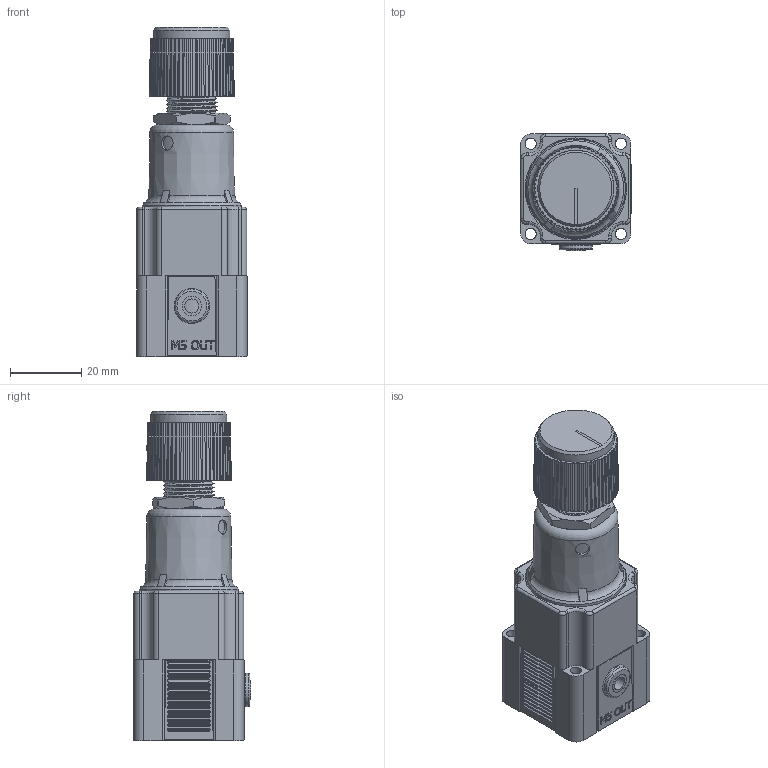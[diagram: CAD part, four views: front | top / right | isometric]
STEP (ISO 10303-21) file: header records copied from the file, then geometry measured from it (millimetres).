
FILE_DESCRIPTION(/* description */ (''),/* implementation_level */ '2;1');
FILE_NAME(/* name */ 'K:\Normteile INVENTOR\Air-Logic\Regulators\NR4000\NR 4___ S M5 Threads Out.igs.ipt.stp',/* time_stamp */ '2020-05-27T10:51:49+02:00',/* author */ ('Paul'),/* organization */ (''),/* preprocessor_version */ 'ST-DEVELOPER v18',/* originating_system */ 'Autodesk Inventor 2020',/* authorisation */ '');
FILE_SCHEMA (('AUTOMOTIVE_DESIGN { 1 0 10303 214 3 1 1 }'));
Length unit declared in the file: inch
Products named in the file (1): NR 4___ S M5 Threads Out.igs
Bounding box: 31.06 x 32.97 x 92.65 mm (x, y, z)
Volume: 54834.7 mm3; surface area: 18235.5 mm2
Topology: 1 solids, 1 shells, 964 faces, 2492 edges, 1595 vertices
Faces by surface type: plane 473, cylinder 328, cone 82, bspline 58, torus 23
Full cylindrical faces by diameter (mm): 3.175 x4, 3.962 x1, 3.988 x1, 4.039 x1, 4.064 x1, 5.486 x1, 6.248 x1, 9.169 x1, 9.398 x1, 9.652 x1, 12.903 x1, 14.288 x2, 19.406 x1, 21.476 x1, 26.264 x1, 27.94 x1, 27.991 x1, 28.575 x1
Entity records: 38318 total; most frequent: CARTESIAN_POINT 13443, DIRECTION 5092, ORIENTED_EDGE 4984, EDGE_CURVE 2492, AXIS2_PLACEMENT_3D 1928, VERTEX_POINT 1595, LINE 1236, VECTOR 1236
